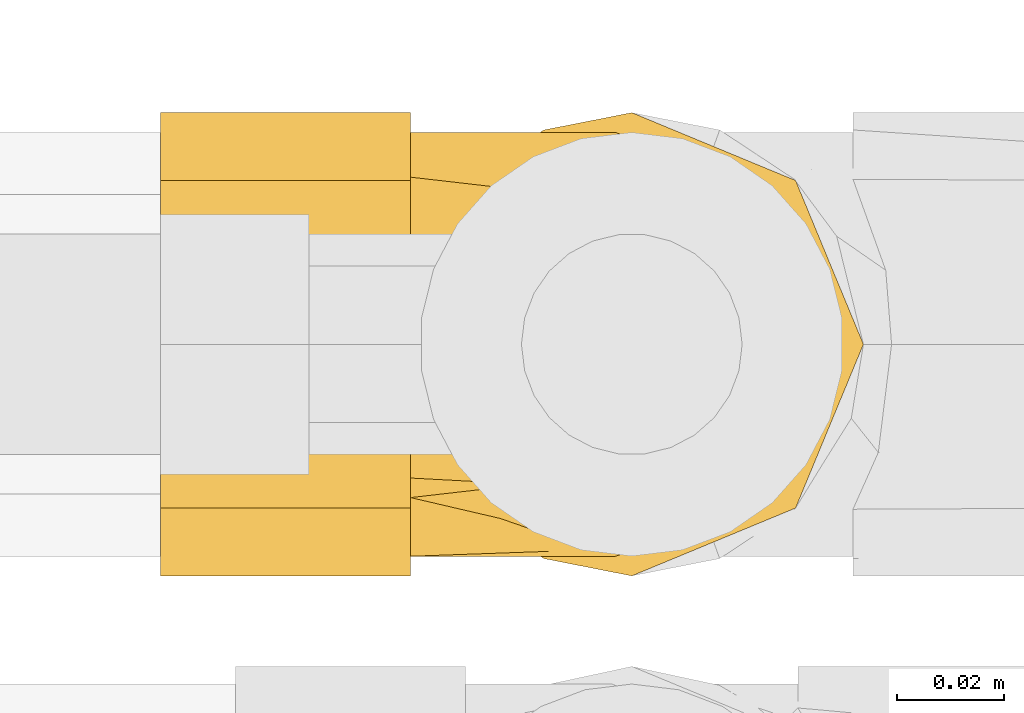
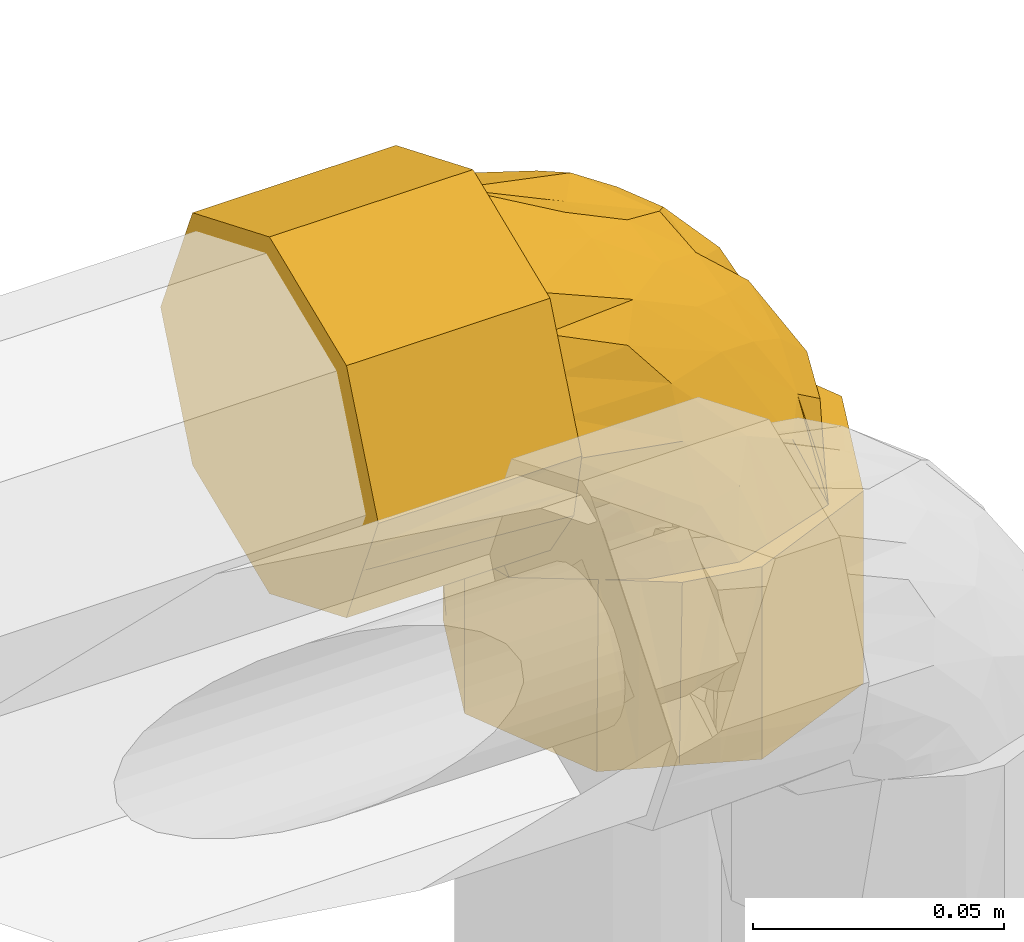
# One storey, part 186 of 652: 1 covering.
"""IFC2X3 building model written with IfcOpenShell, lengths in millimetres."""

from ifc_helpers import new_model, entity, si_unit, converted_unit, direction, frame, origin, place, context, subcontext, project, spatial, faceted_brep, material, type_object, element, save


model = new_model("IFC2X3")

# Units and contexts
model_context = context("Model", 3, precision=0.01, world=frame((0.0, 0.0, 308426.39999999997)), true_north=direction((6.123233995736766e-17, 1.0)))
plan_context = context("Plan", 3, precision=0.01, world=frame((0.0, 0.0, 308426.39999999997)), true_north=direction((6.123233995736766e-17, 1.0)))
body_context = subcontext(model_context, "Body", "Model", "MODEL_VIEW")
ifc_project = project(units=[si_unit("LENGTHUNIT", "METRE", prefix="MILLI"), si_unit("AREAUNIT", "SQUARE_METRE"), si_unit("VOLUMEUNIT", "CUBIC_METRE"), converted_unit("PLANEANGLEUNIT", "DEGREE", entity("IfcPlaneAngleMeasure", 0.017453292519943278), si_unit("PLANEANGLEUNIT", "RADIAN"), dimensions=[0, 0, 0, 0, 0, 0, 0])], contexts=[model_context, plan_context])

# Site, building, storey
site_placement = place(None, origin())
site = spatial("IfcSite", under=ifc_project, at=site_placement, Name="Default", CompositionType="ELEMENT")
building_placement = place(site_placement, origin())
building = spatial("IfcBuilding", under=site, at=building_placement, CompositionType="ELEMENT")
storey_placement = place(building_placement, frame((0.0, 0.0, 1730.6999999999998)))
storey = spatial("IfcBuildingStorey", under=building, at=storey_placement, Name="EG_Produktion_FFB", CompositionType="ELEMENT", Elevation=1730.6999999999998)

# Covering
ifc_material = material(Name="Dämmung - Armaflex-Schlauch")
covering_type = type_object("IfcCoveringType", Name="Rohrdämmung außen:Armaflex-Schlauch", PredefinedType="INSULATION")
covering_placement = place(storey_placement, frame((69411.88225000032, 41580.089177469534, 3844.909272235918)))
element("IfcCovering", 1, at=covering_placement, inside=storey, type_object=covering_type, material=ifc_material, Name="Rohrdämmung außen:Armaflex-Schlauch", ObjectType="Rohrdämmung außen:Armaflex-Schlauch", PredefinedType="INSULATION", context=body_context, shape_type="Brep", body=[
    faceted_brep([(88.11775000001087, 88.22327223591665, -86.27477223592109), (79.90226074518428, 86.60452029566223, -86.27477223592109), (71.68677149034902, 84.98576835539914, -86.27477223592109), (64.70149861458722, 80.37355282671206, -86.27477223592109), (57.71622573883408, 75.76133729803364, -86.27477223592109), (66.55955447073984, 79.62862730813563, -86.27477223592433), (75.40288320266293, 83.49591731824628, -86.27477223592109), (85.04966346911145, 84.54677223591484, -86.27477223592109), (92.72698145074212, 81.01733375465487, -86.27477223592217), (100.40429943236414, 77.48789527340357, -86.27477223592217), (108.63450810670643, 73.70428030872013, -86.27477223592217), (116.86471678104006, 69.92066534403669, -86.27477223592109), (120.01964159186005, 61.219696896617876, -86.27477223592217), (122.9766781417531, 53.0644845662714, -86.27477223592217), (125.93371469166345, 44.909272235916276, -86.27477223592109), (122.035771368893, 37.09633037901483, -86.27477223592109), (118.13782804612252, 29.283388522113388, -86.27477223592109), (114.2398847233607, 21.470446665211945, -86.27477223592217), (110.34194140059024, 13.6575048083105, -86.27477223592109), (101.29094031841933, 10.656617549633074, -86.27477223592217), (93.17030189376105, 7.9641948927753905, -86.27477223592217), (85.04966346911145, 5.271772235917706, -86.27477223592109), (81.34938260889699, 6.070267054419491, -86.27477223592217), (77.64910174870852, 6.868761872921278, -86.27477223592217), (71.91234130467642, 8.106714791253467, -86.27477223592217), (66.17558086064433, 9.344667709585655, -86.27477223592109), (57.71622573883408, 14.057207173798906, -86.27477223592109), (64.70149861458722, 9.44499164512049, -86.27477223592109), (71.68677149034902, 4.83277611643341, -86.27477223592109), (79.06082116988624, 3.3798185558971, -86.27477223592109), (88.11775000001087, 1.5952722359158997, -86.27477223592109), (96.48128679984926, 5.0595626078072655, -86.27477223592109), (103.43156156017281, 7.938460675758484, -86.27477223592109), (111.08846734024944, 11.110054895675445, -86.27477223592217), (118.74537312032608, 14.281649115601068, -86.27477223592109), (121.9169673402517, 21.938554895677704, -86.27477223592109), (125.08856156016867, 29.59546067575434, -86.27477223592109), (127.96746015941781, 36.54573671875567, -86.27477223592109), (131.43175000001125, 44.909272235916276, -86.27477223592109), (127.9674596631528, 53.27280895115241, -86.27477223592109), (125.08856156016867, 60.223083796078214, -86.27477223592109), (121.9169673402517, 67.87998957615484, -86.27477223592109), (118.74537312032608, 75.53689535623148, -86.27477223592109), (111.08846734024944, 78.70848957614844, -86.27477223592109), (103.43156156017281, 81.88008379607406, -86.27477223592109), (96.48128540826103, 84.75898244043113, -86.27477223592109), (131.43175000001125, 44.909272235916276, -133.02702223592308), (128.2601557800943, 37.25236645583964, -133.02702223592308), (125.08856156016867, 29.59546067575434, -133.02702223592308), (121.91696734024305, 21.938554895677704, -133.02702223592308), (118.74537312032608, 14.281649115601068, -133.02702223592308), (111.79509868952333, 11.402751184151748, -133.02702223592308), (104.84482425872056, 8.523853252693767, -133.02702223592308), (96.48128712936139, 5.059562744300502, -133.02702223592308), (88.11775000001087, 1.5952722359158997, -133.02702223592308), (80.46084421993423, 4.766866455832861, -133.02702223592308), (72.80393843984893, 7.938460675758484, -133.02702223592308), (65.14703265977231, 11.110054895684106, -133.02702223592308), (57.490126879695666, 14.281649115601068, -133.02702223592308), (54.318532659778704, 21.938554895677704, -133.02702223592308), (51.14693843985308, 29.59546067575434, -133.02702223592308), (47.97534421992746, 37.25236645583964, -133.02702223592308), (44.803750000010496, 44.909272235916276, -133.02702223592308), (48.26803976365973, 53.27280756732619, -133.02702223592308), (51.14693843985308, 60.223083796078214, -133.02702223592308), (54.318532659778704, 67.87998957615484, -133.02702223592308), (57.490126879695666, 75.53689535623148, -133.02702223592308), (65.14703265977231, 78.7084895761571, -133.02702223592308), (72.80393843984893, 81.88008379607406, -133.02702223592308), (80.46084421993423, 85.05167801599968, -133.02702223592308), (88.11775000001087, 88.22327223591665, -133.02702223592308), (95.77465578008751, 85.05167801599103, -133.02702223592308), (103.43156156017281, 81.88008379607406, -133.02702223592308), (111.08846734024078, 78.70848957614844, -133.02702223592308), (118.74537312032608, 75.53689535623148, -133.02702223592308), (121.91696734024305, 67.87998957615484, -133.02702223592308), (125.08856156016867, 60.223083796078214, -133.02702223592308), (128.2601557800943, 52.56617801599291, -133.02702223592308), (47.07645465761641, 31.06316546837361, -92.39161487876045), (46.390187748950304, 35.24414202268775, -92.72308548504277), (44.803750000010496, 44.909272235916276, -93.48934344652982), (52.396340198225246, 22.56018632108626, -89.33319355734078), (47.307090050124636, 55.016841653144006, -92.24819953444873), (49.810430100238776, 65.12441107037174, -91.00705562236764), (53.763327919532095, 70.44287418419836, -88.64091392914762), (46.752250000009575, 88.22327223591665, -44.909272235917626), (46.75225000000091, 84.75898211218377, -36.54573603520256), (46.752250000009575, 81.29469198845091, -28.18219983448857), (46.752250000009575, 78.4157936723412, -21.231924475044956), (46.752250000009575, 75.53689535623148, -14.281649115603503), (46.752250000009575, 67.87998957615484, -11.110054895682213), (46.752250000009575, 60.223083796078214, -7.93846067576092), (46.752250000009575, 53.27280760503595, -5.059562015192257), (46.752250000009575, 44.909272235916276, -1.5952722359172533), (46.752250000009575, 36.545735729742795, -5.059562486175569), (46.752250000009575, 29.59546067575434, -7.93846067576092), (46.752250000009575, 21.938554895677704, -11.110054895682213), (46.752250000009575, 14.281649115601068, -14.281649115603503), (46.752250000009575, 11.110054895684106, -21.938554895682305), (46.752250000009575, 7.938460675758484, -29.595460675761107), (46.752250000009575, 5.059562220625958, -36.545736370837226), (46.752250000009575, 1.5952722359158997, -44.909272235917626), (46.75225000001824, 3.379818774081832, -53.96620217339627), (46.752250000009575, 4.83277611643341, -61.34025074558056), (46.752250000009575, 9.44499164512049, -68.32552362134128), (46.752250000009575, 14.05720717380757, -75.310796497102), (46.75225000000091, 10.189917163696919, -66.46746776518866), (46.752250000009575, 6.322627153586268, -57.62413903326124), (46.752250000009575, 5.271772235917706, -47.97735876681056), (46.752250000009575, 8.92829895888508, -40.0235954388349), (46.752250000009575, 12.584825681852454, -32.06983211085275), (46.752250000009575, 16.24135240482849, -24.116068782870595), (46.752250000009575, 19.897879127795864, -16.162305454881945), (46.752250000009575, 32.40357568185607, -11.627806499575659), (46.75225000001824, 36.75405942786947, -10.050344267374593), (46.752250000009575, 44.909272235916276, -7.09330754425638), (46.75225000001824, 52.722214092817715, -10.991250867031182), (46.752250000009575, 60.53515594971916, -14.889194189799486), (46.752250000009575, 68.34809780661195, -18.787137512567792), (46.752250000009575, 76.16103966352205, -22.6850808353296), (46.752250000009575, 80.35390594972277, -35.33121980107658), (46.752250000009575, 84.54677223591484, -47.97735876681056), (46.75225000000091, 83.74827732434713, -51.677640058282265), (46.75225000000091, 82.94978241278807, -55.377921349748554), (46.75225000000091, 81.71182958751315, -61.11468136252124), (46.752250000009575, 80.47387676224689, -66.85144137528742), (46.752250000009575, 75.76133729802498, -75.310796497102), (46.752250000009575, 80.37355282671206, -68.32552362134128), (46.752250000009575, 84.98576835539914, -61.34025074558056), (46.752250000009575, 86.43872593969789, -53.96620094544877), (0.0, 44.909272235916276, -88.22327223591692), (0.0, 36.54573689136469, -84.75898246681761), (0.0, 29.59546067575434, -81.88008379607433), (0.0, 21.938554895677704, -78.70848957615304), (0.0, 14.281649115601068, -75.53689535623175), (0.0, 11.110054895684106, -67.87998957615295), (0.0, 7.938460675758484, -60.22308379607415), (0.0, 4.766866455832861, -52.56617801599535), (0.0, 1.5952722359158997, -44.909272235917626), (0.0, 4.766866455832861, -37.25236645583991), (0.0, 7.938460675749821, -29.595460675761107), (0.0, 11.110054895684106, -21.938554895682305), (0.0, 14.281649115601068, -14.281649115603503), (0.0, 21.23192365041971, -11.402751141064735), (0.0, 28.18219818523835, -8.523853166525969), (0.0, 36.54573521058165, -5.059562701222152), (0.0, 44.909272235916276, -1.5952722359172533), (0.0, 52.56617801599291, -4.766866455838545), (0.0, 60.223083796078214, -7.93846067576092), (0.0, 67.87998957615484, -11.110054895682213), (0.0, 75.53689535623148, -14.281649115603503), (0.0, 78.70848957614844, -21.938554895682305), (0.0, 81.88008379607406, -29.595460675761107), (0.0, 85.05167801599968, -37.252366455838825), (0.0, 88.22327223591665, -44.909272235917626), (0.0, 85.05167801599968, -52.56617801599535), (0.0, 81.88008379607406, -60.22308379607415), (0.0, 78.70848957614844, -67.87998957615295), (0.0, 75.53689535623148, -75.53689535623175), (0.0, 67.87998957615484, -78.70848957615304), (0.0, 60.223083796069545, -81.88008379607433), (0.0, 52.56617801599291, -85.05167801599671), (39.53767878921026, 44.909272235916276, -88.223272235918), (40.77882270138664, 34.80170281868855, -85.71993218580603), (42.01996661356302, 24.694133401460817, -83.21659213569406), (44.3861083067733, 19.375670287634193, -79.26369431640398), (40.63540735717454, 58.75537900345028, -85.95056757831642), (40.30393673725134, 54.574402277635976, -86.6368345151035), (43.69382867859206, 67.25835815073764, -80.63068203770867), (88.73429544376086, 8.72536112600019, -59.00702437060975), (71.80233442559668, 9.463919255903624, -40.77451902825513), (72.73171129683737, 6.190713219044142, -53.14689646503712), (101.46918686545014, 12.527264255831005, -66.6465202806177), (106.10858534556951, 25.558634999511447, -51.63313701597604), (104.62433945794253, 35.53659081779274, -43.08373948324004), (94.19573320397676, 26.095882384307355, -37.02131540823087), (86.62214195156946, 15.174603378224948, -41.794787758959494), (114.6682496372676, 24.48702608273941, -68.5994420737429), (85.54000769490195, 6.12949354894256, -68.36987412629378), (77.34212049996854, 36.56453509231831, -19.457763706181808), (63.10883867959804, 36.607474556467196, -12.671024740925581), (65.48441634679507, 30.129712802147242, -15.757507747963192), (117.68107501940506, 34.911080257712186, -64.54760757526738), (106.03030708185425, 18.5736194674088, -60.88326927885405), (76.51750923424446, 5.271772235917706, -69.69467833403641), (68.47704441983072, 18.729445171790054, -24.873461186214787), (63.4953426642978, 12.344103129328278, -30.406426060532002), (116.84576107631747, 44.909272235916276, -71.37519469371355), (91.22297922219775, 33.320544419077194, -30.25030173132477), (89.58190023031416, 44.909272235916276, -26.676462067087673), (68.1670751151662, 44.909272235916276, -16.884884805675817), (64.60703401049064, 44.909272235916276, -15.257114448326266), (107.75780746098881, 44.909272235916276, -56.47561715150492), (96.83815184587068, 19.992770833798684, -45.75001504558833), (98.66985384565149, 44.909272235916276, -41.5760396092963), (79.91196653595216, 27.04750515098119, -24.978468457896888), (84.11181017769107, 20.450199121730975, -33.120685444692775), (53.17889625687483, 5.271772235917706, -52.66636649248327), (59.60554251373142, 5.271772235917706, -57.355374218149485), (61.63487961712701, 5.271772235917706, -58.836018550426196), (68.0615258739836, 5.271772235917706, -63.52502627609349), (80.78358635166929, 5.271772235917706, -77.98472528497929), (83.20747781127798, 5.271772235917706, -82.69494815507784), (69.04670125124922, 6.602930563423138, -76.76607882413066), (54.5562667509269, 12.248448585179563, -78.470755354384), (61.11186851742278, 9.802068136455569, -79.81672477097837), (62.40913681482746, 7.31777667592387, -72.3614417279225), (42.40915936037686, 44.909272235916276, -90.61786287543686), (48.01851651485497, 20.699108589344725, -84.55846897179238), (55.418288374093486, 6.39271929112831, -62.42424199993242), (54.000773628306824, 8.946882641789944, -70.33989982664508), (60.14265850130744, 6.501503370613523, -66.44091790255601), (70.80808668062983, 83.44870733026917, -77.75316620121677), (81.36529215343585, 84.54677223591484, -79.1151240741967), (48.46855326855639, 69.11943544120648, -85.00850621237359), (54.52623050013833, 77.54084580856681, -78.50079160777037), (58.74435758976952, 82.04384465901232, -70.60396120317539), (62.718384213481, 81.03832580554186, -78.46472668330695), (67.2071630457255, 83.78700892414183, -70.42529171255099), (63.60418390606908, 83.93264694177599, -65.67912818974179), (49.96557312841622, 84.54677223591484, -50.32186262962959), (53.17889625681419, 84.54677223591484, -52.66636649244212), (59.60554251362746, 84.54677223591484, -57.35537421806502), (68.06152587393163, 84.54677223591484, -63.525026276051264), (56.15572771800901, 83.4069439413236, -63.00262370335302), (76.51750923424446, 84.54677223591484, -69.6946783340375), (61.63487961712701, 84.54677223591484, -58.836018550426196), (110.4895373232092, 71.93495508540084, -71.5117071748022), (102.01509896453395, 77.69345816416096, -69.01116982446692), (101.62783839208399, 72.91689334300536, -56.701226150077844), (65.19910851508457, 82.85383626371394, -43.98287164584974), (107.69923858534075, 52.36213425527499, -46.38350960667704), (95.05710334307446, 67.85753446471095, -41.55313402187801), (112.39514387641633, 65.05516443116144, -63.24935143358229), (92.18182718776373, 81.63721611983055, -66.35650053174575), (87.21494597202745, 83.68517128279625, -71.0973330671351), (64.70970163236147, 74.0908416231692, -26.304606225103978), (84.6921417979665, 74.40030482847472, -39.694965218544), (65.71529073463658, 78.82291109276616, -33.85362436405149), (78.62112142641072, 83.53620477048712, -58.27323202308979), (81.21836113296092, 80.46753636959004, -48.6479570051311), (75.81996252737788, 56.49951958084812, -19.56241406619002), (94.93182715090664, 52.63311954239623, -32.22607522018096), (88.21869424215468, 59.3166552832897, -29.054550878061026), (117.95353214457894, 54.80835259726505, -65.09145612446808), (75.0385844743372, 68.4153200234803, -26.02971117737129), (100.5844841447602, 59.54913999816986, -40.90573931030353)], [[[0, 1, 2, 3, 4, 5, 6, 7, 8, 9, 10, 11, 12, 13, 14, 15, 16, 17, 18, 19, 20, 21, 22, 23, 24, 25, 26, 27, 28, 29, 30, 31, 32, 33, 34, 35, 36, 37, 38, 39, 40, 41, 42, 43, 44, 45]], [[46, 47, 48, 49, 50, 51, 52, 53, 54, 55, 56, 57, 58, 59, 60, 61, 62, 63, 64, 65, 66, 67, 68, 69, 70, 71, 72, 73, 74, 75, 76, 77]], [[26, 58, 57]], [[27, 26, 57]], [[61, 78, 79, 80]], [[30, 29, 55]], [[78, 60, 81]], [[29, 56, 55]], [[56, 28, 27]], [[30, 55, 54]], [[56, 27, 57]], [[56, 29, 28]], [[61, 80, 62]], [[58, 81, 60, 59]], [[61, 60, 78]], [[58, 26, 81]], [[31, 30, 54, 53, 52, 51, 50, 34, 33, 32]], [[34, 50, 49, 48, 47, 46, 38, 37, 36, 35]], [[0, 45, 44, 43, 42, 74, 73, 72, 71, 70]], [[76, 75, 74, 42, 41, 40, 39, 38, 46, 77]], [[70, 1, 0]], [[3, 2, 68]], [[82, 64, 63]], [[4, 67, 66]], [[3, 68, 67]], [[65, 83, 84, 4]], [[64, 82, 83]], [[68, 2, 69]], [[1, 70, 69]], [[63, 80, 82]], [[69, 2, 1]], [[67, 4, 3]], [[63, 62, 80]], [[65, 4, 66]], [[65, 64, 83]], [[85, 86, 87, 88, 89, 90, 91, 92, 93, 94, 95, 96, 97, 98, 99, 100, 101, 102, 103, 104, 105, 106, 107, 108, 109, 110, 111, 112, 113, 114, 115, 116, 117, 118, 119, 120, 121, 122, 123, 124, 125, 126, 127, 128, 129]], [[130, 131, 132, 133, 134, 135, 136, 137, 138, 139, 140, 141, 142, 143, 144, 145, 146, 147, 148, 149, 150, 151, 152, 153, 154, 155, 156, 157, 158, 159, 160, 161]], [[144, 143, 142, 97, 96, 95, 94, 93, 146, 145]], [[97, 142, 141, 140, 139, 138, 101, 100, 99, 98]], [[136, 102, 137]], [[105, 135, 134]], [[131, 130, 162]], [[101, 137, 102]], [[104, 136, 135]], [[104, 103, 136]], [[132, 163, 164]], [[163, 132, 131]], [[133, 164, 165, 105]], [[131, 162, 163]], [[101, 138, 137]], [[135, 105, 104]], [[102, 136, 103]], [[133, 105, 134]], [[133, 132, 164]], [[161, 162, 130]], [[85, 129, 155]], [[161, 166, 167, 162]], [[156, 128, 127]], [[166, 160, 168]], [[129, 156, 155]], [[157, 156, 127]], [[85, 155, 154]], [[158, 168, 160, 159]], [[156, 129, 128]], [[161, 160, 166]], [[158, 126, 168]], [[126, 157, 127]], [[126, 158, 157]], [[150, 89, 88, 87, 86, 85, 154, 153, 152, 151]], [[89, 150, 149, 148, 147, 146, 93, 92, 91, 90]], [[169, 170, 171]], [[19, 172, 169]], [[173, 174, 175]], [[176, 170, 169]], [[17, 16, 177]], [[21, 20, 178]], [[179, 180, 181]], [[182, 177, 16]], [[178, 20, 169]], [[19, 18, 172]], [[18, 17, 183]], [[20, 19, 169]], [[184, 178, 171]], [[185, 186, 176]], [[176, 169, 172]], [[176, 172, 183]], [[15, 187, 182]], [[183, 17, 177]], [[186, 111, 110]], [[175, 174, 188]], [[179, 189, 190, 191]], [[182, 173, 177]], [[183, 177, 173]], [[182, 16, 15]], [[173, 182, 174]], [[182, 192, 174]], [[173, 175, 193]], [[183, 172, 18]], [[188, 194, 189]], [[189, 179, 188]], [[185, 195, 181]], [[109, 170, 110]], [[185, 112, 111]], [[170, 186, 110]], [[196, 185, 176]], [[170, 109, 171]], [[171, 108, 197, 198, 199, 200, 184]], [[176, 186, 170]], [[185, 111, 186]], [[179, 181, 195]], [[108, 171, 109]], [[185, 181, 112]], [[181, 180, 113]], [[188, 179, 195]], [[188, 195, 175]], [[174, 194, 188]], [[196, 195, 185]], [[196, 176, 193]], [[115, 114, 113, 180]], [[112, 181, 113]], [[179, 191, 180]], [[115, 180, 191]], [[171, 178, 169]], [[174, 192, 194]], [[178, 184, 201, 202, 21]], [[187, 15, 14]], [[187, 192, 182]], [[193, 176, 183]], [[195, 196, 175]], [[173, 193, 183]], [[175, 196, 193]], [[203, 25, 24]], [[204, 26, 205]], [[206, 205, 203]], [[207, 80, 79]], [[203, 200, 206]], [[208, 165, 164]], [[78, 164, 163]], [[209, 107, 106]], [[204, 205, 206]], [[204, 210, 105]], [[107, 198, 197, 108]], [[210, 204, 206]], [[210, 209, 106]], [[79, 163, 207]], [[163, 79, 78]], [[207, 163, 162]], [[209, 210, 211]], [[198, 209, 211]], [[204, 165, 208]], [[78, 81, 26, 208]], [[105, 210, 106]], [[210, 206, 211]], [[208, 26, 204]], [[107, 209, 198]], [[204, 105, 165]], [[78, 208, 164]], [[26, 25, 205]], [[203, 205, 25]], [[202, 201, 24, 23, 22, 21]], [[200, 203, 184]], [[201, 203, 24]], [[203, 201, 184]], [[206, 200, 211]], [[211, 200, 199, 198]], [[207, 82, 80]], [[212, 213, 6]], [[84, 214, 215]], [[125, 216, 126]], [[7, 6, 213]], [[4, 217, 5]], [[218, 217, 216]], [[216, 217, 215]], [[167, 166, 82]], [[216, 215, 126]], [[166, 83, 82]], [[219, 218, 216]], [[215, 217, 4]], [[84, 83, 214]], [[122, 121, 220, 221, 222, 124, 123]], [[207, 162, 167]], [[218, 219, 223]], [[125, 224, 216]], [[6, 5, 212]], [[167, 82, 207]], [[166, 168, 126, 214]], [[218, 212, 217]], [[215, 4, 84]], [[214, 126, 215]], [[166, 214, 83]], [[223, 225, 218]], [[212, 218, 225]], [[212, 225, 213]], [[217, 212, 5]], [[216, 224, 219]], [[222, 224, 124]], [[219, 222, 226, 223]], [[224, 125, 124]], [[222, 219, 224]], [[227, 228, 229]], [[230, 121, 120]], [[192, 231, 194]], [[232, 233, 229]], [[234, 8, 235]], [[236, 237, 238]], [[9, 228, 10]], [[234, 235, 239]], [[240, 234, 239]], [[119, 236, 238]], [[241, 242, 243]], [[235, 7, 213, 225]], [[227, 11, 10]], [[9, 8, 234]], [[12, 233, 244]], [[227, 233, 11]], [[230, 226, 222, 221, 220, 121]], [[238, 237, 240]], [[241, 117, 116]], [[239, 230, 240]], [[239, 226, 230]], [[240, 230, 238]], [[238, 230, 120]], [[120, 119, 238]], [[118, 245, 236]], [[241, 245, 117]], [[237, 232, 229]], [[245, 243, 232]], [[229, 240, 237]], [[187, 13, 244]], [[233, 12, 11]], [[194, 231, 242]], [[246, 244, 233]], [[244, 192, 187]], [[239, 225, 223, 226]], [[228, 240, 229]], [[9, 234, 228]], [[240, 228, 234]], [[246, 242, 231]], [[194, 242, 189]], [[245, 232, 237]], [[233, 232, 246]], [[228, 227, 10]], [[233, 227, 229]], [[116, 190, 241]], [[190, 189, 241]], [[116, 115, 191, 190]], [[192, 244, 231]], [[244, 246, 231]], [[243, 242, 246]], [[241, 189, 242]], [[232, 243, 246]], [[245, 241, 243]], [[7, 235, 8]], [[225, 239, 235]], [[118, 117, 245]], [[237, 236, 245]], [[236, 119, 118]], [[13, 187, 14]], [[13, 12, 244]]]),
])

save(model, "model.ifc")
